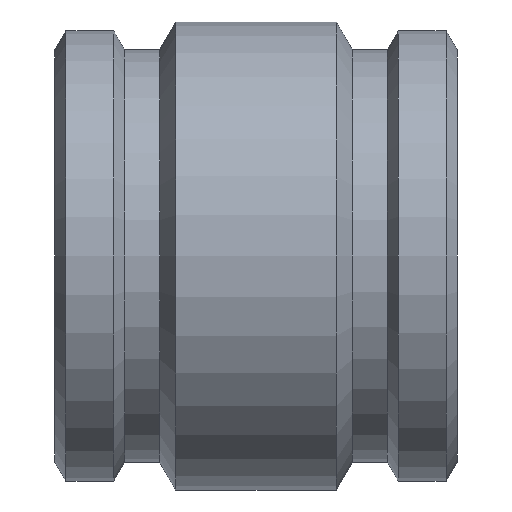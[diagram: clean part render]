
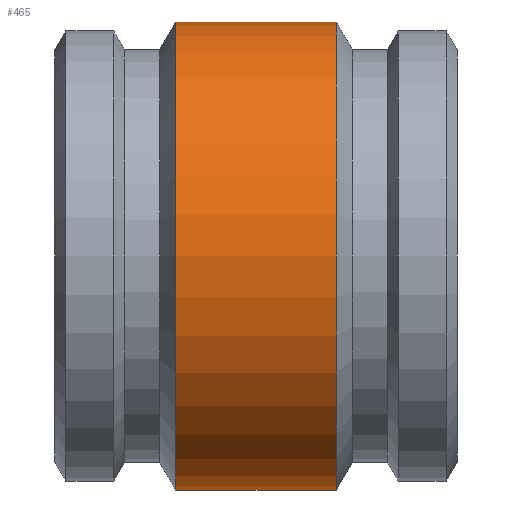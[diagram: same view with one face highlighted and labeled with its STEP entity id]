
A CAD part, front view. The second image highlights one B-rep face of the part: STEP entity #465.
In plain terms, the highlighted cylindrical face has radius 139.7 mm (diameter 279.4 mm), a full revolution.
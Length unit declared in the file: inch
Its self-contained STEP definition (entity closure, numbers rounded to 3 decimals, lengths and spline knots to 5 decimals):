
#51=CIRCLE('',#533,5.5);
#52=CIRCLE('',#534,5.5);
#53=CIRCLE('',#536,5.5);
#54=CIRCLE('',#537,5.5);
#74=CYLINDRICAL_SURFACE('',#535,5.5);
#105=FACE_OUTER_BOUND('',#139,.T.);
#139=EDGE_LOOP('',(#399,#400,#401,#402,#403,#404));
#163=LINE('',#1204,#183);
#183=VECTOR('',#661,5.5);
#231=VERTEX_POINT('',#1194);
#232=VERTEX_POINT('',#1195);
#233=VERTEX_POINT('',#1200);
#234=VERTEX_POINT('',#1201);
#290=EDGE_CURVE('',#231,#232,#51,.T.);
#291=EDGE_CURVE('',#232,#231,#52,.T.);
#293=EDGE_CURVE('',#233,#234,#53,.T.);
#294=EDGE_CURVE('',#234,#233,#54,.T.);
#295=EDGE_CURVE('',#234,#232,#163,.T.);
#399=ORIENTED_EDGE('',*,*,#293,.F.);
#400=ORIENTED_EDGE('',*,*,#294,.F.);
#401=ORIENTED_EDGE('',*,*,#295,.T.);
#402=ORIENTED_EDGE('',*,*,#291,.T.);
#403=ORIENTED_EDGE('',*,*,#290,.T.);
#404=ORIENTED_EDGE('',*,*,#295,.F.);
#465=ADVANCED_FACE('',(#105),#74,.T.);
#533=AXIS2_PLACEMENT_3D('',#1196,#650,#651);
#534=AXIS2_PLACEMENT_3D('',#1197,#652,#653);
#535=AXIS2_PLACEMENT_3D('',#1199,#655,#656);
#536=AXIS2_PLACEMENT_3D('',#1202,#657,#658);
#537=AXIS2_PLACEMENT_3D('',#1203,#659,#660);
#650=DIRECTION('center_axis',(1.,0.,0.));
#651=DIRECTION('ref_axis',(0.,0.,-1.));
#652=DIRECTION('center_axis',(1.,0.,0.));
#653=DIRECTION('ref_axis',(0.,0.,-1.));
#655=DIRECTION('center_axis',(1.,0.,0.));
#656=DIRECTION('ref_axis',(0.,1.,0.));
#657=DIRECTION('center_axis',(1.,0.,0.));
#658=DIRECTION('ref_axis',(0.,0.,-1.));
#659=DIRECTION('center_axis',(1.,0.,0.));
#660=DIRECTION('ref_axis',(0.,0.,-1.));
#661=DIRECTION('',(-1.,0.,0.));
#1194=CARTESIAN_POINT('',(-1.89,5.5,0.));
#1195=CARTESIAN_POINT('',(-1.89,-5.5,0.));
#1196=CARTESIAN_POINT('Origin',(-1.89,0.,0.));
#1197=CARTESIAN_POINT('Origin',(-1.89,0.,0.));
#1199=CARTESIAN_POINT('Origin',(0.,0.,0.));
#1200=CARTESIAN_POINT('',(1.89,5.5,0.));
#1201=CARTESIAN_POINT('',(1.89,-5.5,0.));
#1202=CARTESIAN_POINT('Origin',(1.89,0.,0.));
#1203=CARTESIAN_POINT('Origin',(1.89,0.,0.));
#1204=CARTESIAN_POINT('',(0.,-5.5,0.));
